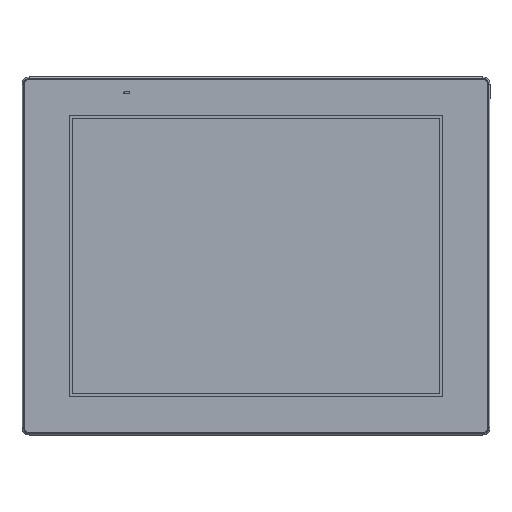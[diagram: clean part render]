
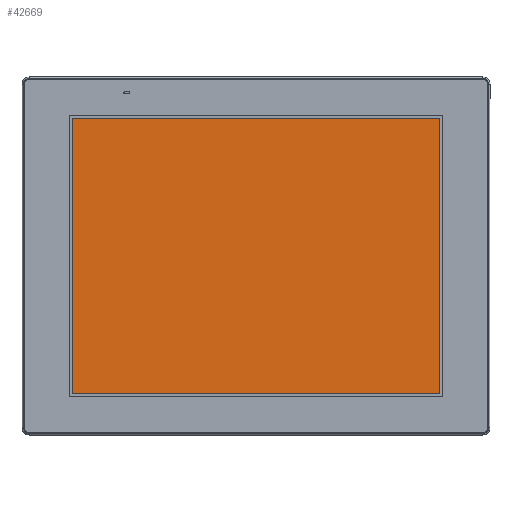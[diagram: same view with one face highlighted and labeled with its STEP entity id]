
A CAD part, top view. The second image highlights one B-rep face of the part: STEP entity #42669.
In plain terms, the highlighted planar face has unit normal (0, 0, 1).
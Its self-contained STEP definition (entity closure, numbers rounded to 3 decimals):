
#2761 = VECTOR ( 'NONE', #68085, 1000. ) ;
#4434 = EDGE_CURVE ( 'NONE', #37219, #7883, #61376, .T. ) ;
#7883 = VERTEX_POINT ( 'NONE', #92287 ) ;
#9350 = DIRECTION ( 'NONE',  ( 0., -1., 0. ) ) ;
#11073 = ORIENTED_EDGE ( 'NONE', *, *, #40685, .T. ) ;
#14929 = CARTESIAN_POINT ( 'NONE',  ( 0., 92.8, 5.068 ) ) ;
#15257 = FACE_OUTER_BOUND ( 'NONE', #71369, .T. ) ;
#22299 = EDGE_CURVE ( 'NONE', #7883, #85178, #71961, .T. ) ;
#31289 = VECTOR ( 'NONE', #9350, 1000. ) ;
#31484 = VECTOR ( 'NONE', #72096, 1000. ) ;
#32054 = CARTESIAN_POINT ( 'NONE',  ( -123.55, 0., 5.068 ) ) ;
#33746 = VERTEX_POINT ( 'NONE', #70973 ) ;
#33905 = LINE ( 'NONE', #56106, #31484 ) ;
#35893 = VECTOR ( 'NONE', #66102, 1000. ) ;
#37124 = AXIS2_PLACEMENT_3D ( 'NONE', #97319, #66378, #89327 ) ;
#37219 = VERTEX_POINT ( 'NONE', #86044 ) ;
#40685 = EDGE_CURVE ( 'NONE', #85178, #33746, #80128, .T. ) ;
#42351 = CARTESIAN_POINT ( 'NONE',  ( -123.55, -92.8, 5.068 ) ) ;
#42669 = ADVANCED_FACE ( 'NONE', ( #15257 ), #87687, .T. ) ;
#56106 = CARTESIAN_POINT ( 'NONE',  ( 123.55, 0., 5.068 ) ) ;
#61376 = LINE ( 'NONE', #14929, #2761 ) ;
#66102 = DIRECTION ( 'NONE',  ( 1., 0., 0. ) ) ;
#66378 = DIRECTION ( 'NONE',  ( 0., 0., 1. ) ) ;
#66709 = EDGE_CURVE ( 'NONE', #33746, #37219, #33905, .T. ) ;
#68085 = DIRECTION ( 'NONE',  ( -1., 0., 0. ) ) ;
#68280 = ORIENTED_EDGE ( 'NONE', *, *, #66709, .T. ) ;
#70973 = CARTESIAN_POINT ( 'NONE',  ( 123.55, -92.8, 5.068 ) ) ;
#71369 = EDGE_LOOP ( 'NONE', ( #90865, #78141, #11073, #68280 ) ) ;
#71961 = LINE ( 'NONE', #32054, #31289 ) ;
#72096 = DIRECTION ( 'NONE',  ( 0., 1., 0. ) ) ;
#78141 = ORIENTED_EDGE ( 'NONE', *, *, #22299, .T. ) ;
#80128 = LINE ( 'NONE', #81762, #35893 ) ;
#81762 = CARTESIAN_POINT ( 'NONE',  ( 0., -92.8, 5.068 ) ) ;
#85178 = VERTEX_POINT ( 'NONE', #42351 ) ;
#86044 = CARTESIAN_POINT ( 'NONE',  ( 123.55, 92.8, 5.068 ) ) ;
#87687 = PLANE ( 'NONE',  #37124 ) ;
#89327 = DIRECTION ( 'NONE',  ( 1., 0., 0. ) ) ;
#90865 = ORIENTED_EDGE ( 'NONE', *, *, #4434, .T. ) ;
#92287 = CARTESIAN_POINT ( 'NONE',  ( -123.55, 92.8, 5.068 ) ) ;
#97319 = CARTESIAN_POINT ( 'NONE',  ( 0., 0., 5.068 ) ) ;
